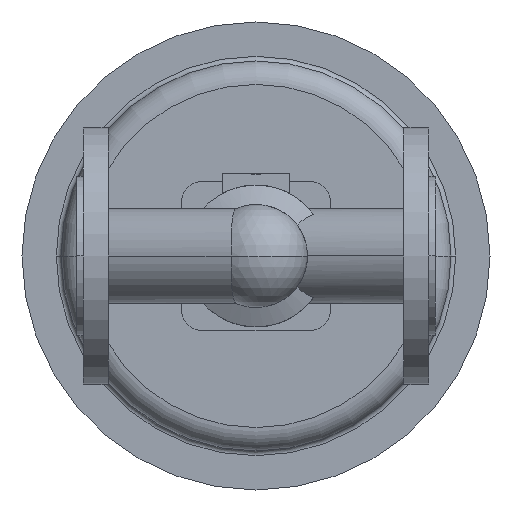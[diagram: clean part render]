
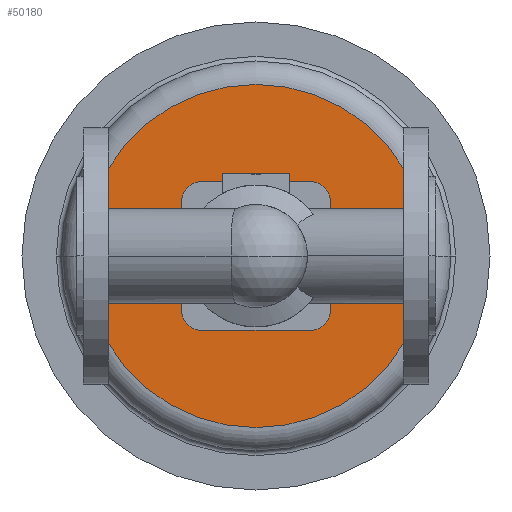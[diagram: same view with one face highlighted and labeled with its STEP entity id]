
A CAD part, front view. The second image highlights one B-rep face of the part: STEP entity #50180.
In plain terms, the highlighted planar face has unit normal (0, -1, 0).
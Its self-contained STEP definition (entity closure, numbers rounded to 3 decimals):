
#49350=CARTESIAN_POINT('',(133.45,534.,0.));
#49360=VERTEX_POINT('',#49350);
#49450=CARTESIAN_POINT('',(96.55,534.,0.));
#49460=VERTEX_POINT('',#49450);
#49490=CARTESIAN_POINT('',(115.,534.,0.));
#49500=DIRECTION('',(0.,1.,0.));
#49510=DIRECTION('',(1.,0.,0.));
#49520=AXIS2_PLACEMENT_3D('',#49490,#49500,#49510);
#49530=CIRCLE('',#49520,18.45);
#49540=EDGE_CURVE('',#49460,#49360,#49530,.T.);
#49590=CARTESIAN_POINT('',(170.,534.,0.));
#49600=DIRECTION('',(0.,-1.,0.));
#49610=DIRECTION('',(-1.,0.,0.));
#49620=AXIS2_PLACEMENT_3D('',#49590,#49600,#49610);
#49630=PLANE('',#49620);
#49640=EDGE_CURVE('',#49360,#49460,#49530,.T.);
#49650=ORIENTED_EDGE('',*,*,#49640,.T.);
#49660=ORIENTED_EDGE('',*,*,#49540,.T.);
#49670=EDGE_LOOP('',(#49660,#49650));
#49680=FACE_BOUND('',#49670,.T.);
#49690=CARTESIAN_POINT('',(65.,534.,0.));
#49700=DIRECTION('',(0.,1.,0.));
#49710=DIRECTION('',(1.,0.,0.));
#49720=AXIS2_PLACEMENT_3D('',#49690,#49700,#49710);
#49730=CIRCLE('',#49720,15.);
#49740=CARTESIAN_POINT('',(80.,534.,0.));
#49750=VERTEX_POINT('',#49740);
#49760=CARTESIAN_POINT('',(50.,534.,0.));
#49770=VERTEX_POINT('',#49760);
#49780=EDGE_CURVE('',#49750,#49770,#49730,.T.);
#49790=ORIENTED_EDGE('',*,*,#49780,.T.);
#49800=EDGE_CURVE('',#49770,#49750,#49730,.T.);
#49810=ORIENTED_EDGE('',*,*,#49800,.T.);
#49820=EDGE_LOOP('',(#49810,#49790));
#49830=FACE_BOUND('',#49820,.T.);
#49840=CARTESIAN_POINT('',(165.,534.,0.));
#49850=DIRECTION('',(0.,1.,0.));
#49860=DIRECTION('',(1.,0.,0.));
#49870=AXIS2_PLACEMENT_3D('',#49840,#49850,#49860);
#49880=CIRCLE('',#49870,15.);
#49890=CARTESIAN_POINT('',(180.,534.,0.));
#49900=VERTEX_POINT('',#49890);
#49910=CARTESIAN_POINT('',(150.,534.,0.));
#49920=VERTEX_POINT('',#49910);
#49930=EDGE_CURVE('',#49900,#49920,#49880,.T.);
#49940=ORIENTED_EDGE('',*,*,#49930,.T.);
#49950=EDGE_CURVE('',#49920,#49900,#49880,.T.);
#49960=ORIENTED_EDGE('',*,*,#49950,.T.);
#49970=EDGE_LOOP('',(#49960,#49940));
#49980=FACE_BOUND('',#49970,.T.);
#49990=CARTESIAN_POINT('',(115.,534.,0.));
#50000=DIRECTION('',(0.,1.,0.));
#50010=DIRECTION('',(1.,0.,0.));
#50020=AXIS2_PLACEMENT_3D('',#49990,#50000,#50010);
#50030=CIRCLE('',#50020,110.);
#50040=CARTESIAN_POINT('',(115.,534.,110.));
#50050=VERTEX_POINT('',#50040);
#50060=CARTESIAN_POINT('',(225.,534.,0.));
#50070=VERTEX_POINT('',#50060);
#50080=EDGE_CURVE('',#50050,#50070,#50030,.T.);
#50090=ORIENTED_EDGE('',*,*,#50080,.F.);
#50100=CARTESIAN_POINT('',(5.,534.,0.));
#50110=VERTEX_POINT('',#50100);
#50120=EDGE_CURVE('',#50070,#50110,#50030,.T.);
#50130=ORIENTED_EDGE('',*,*,#50120,.F.);
#50140=EDGE_CURVE('',#50110,#50050,#50030,.T.);
#50150=ORIENTED_EDGE('',*,*,#50140,.F.);
#50160=EDGE_LOOP('',(#50150,#50130,#50090));
#50170=FACE_OUTER_BOUND('',#50160,.T.);
#50180=ADVANCED_FACE('',(#49680,#49830,#49980,#50170),#49630,.T.);
